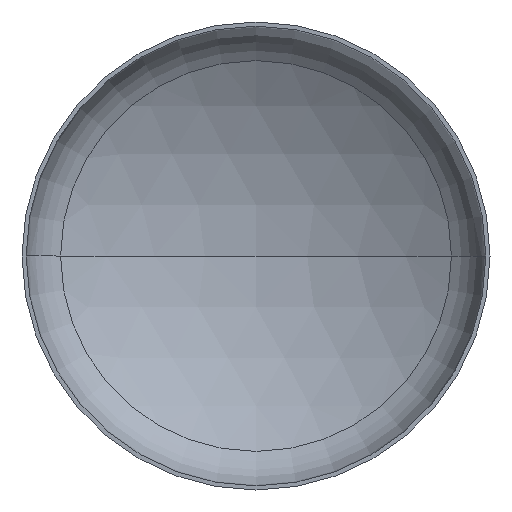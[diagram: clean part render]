
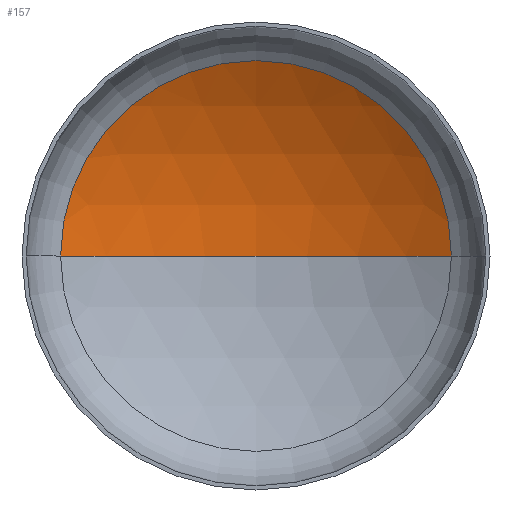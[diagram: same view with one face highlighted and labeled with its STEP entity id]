
A CAD part, front view. The second image highlights one B-rep face of the part: STEP entity #157.
In plain terms, the highlighted spherical face has radius 5200 mm.
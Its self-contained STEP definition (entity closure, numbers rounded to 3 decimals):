
#7 = ORIENTED_EDGE ( 'NONE', *, *, #102, .T. ) ;
#11 = ORIENTED_EDGE ( 'NONE', *, *, #99, .T. ) ;
#33 = AXIS2_PLACEMENT_3D ( 'NONE', #205, #241, #178 ) ;
#56 = AXIS2_PLACEMENT_3D ( 'NONE', #172, #151, #152 ) ;
#60 = AXIS2_PLACEMENT_3D ( 'NONE', #156, #159, #271 ) ;
#62 = AXIS2_PLACEMENT_3D ( 'NONE', #281, #267, #266 ) ;
#63 = VERTEX_POINT ( 'NONE', #211 ) ;
#69 = EDGE_LOOP ( 'NONE', ( #395, #7, #11 ) ) ;
#80 = VERTEX_POINT ( 'NONE', #207 ) ;
#99 = EDGE_CURVE ( 'NONE', #165, #80, #210, .T. ) ;
#102 = EDGE_CURVE ( 'NONE', #63, #165, #136, .T. ) ;
#106 = EDGE_CURVE ( 'NONE', #63, #80, #409, .T. ) ;
#136 = CIRCLE ( 'NONE', #60, 5200. ) ;
#137 = CARTESIAN_POINT ( 'NONE',  ( 2713.905, 973.004, 0. ) ) ;
#151 = DIRECTION ( 'NONE',  ( 0., 0., 1. ) ) ;
#152 = DIRECTION ( 'NONE',  ( 1., 0., 0. ) ) ;
#156 = CARTESIAN_POINT ( 'NONE',  ( 0., -3462.616, 0. ) ) ;
#157 = ADVANCED_FACE ( 'NONE', ( #191 ), #262, .F. ) ;
#159 = DIRECTION ( 'NONE',  ( 0., 0., -1. ) ) ;
#165 = VERTEX_POINT ( 'NONE', #137 ) ;
#172 = CARTESIAN_POINT ( 'NONE',  ( 0., -3462.616, 0. ) ) ;
#178 = DIRECTION ( 'NONE',  ( -1., 0., 0. ) ) ;
#191 = FACE_OUTER_BOUND ( 'NONE', #69, .T. ) ;
#205 = CARTESIAN_POINT ( 'NONE',  ( 0., -3462.616, 0. ) ) ;
#207 = CARTESIAN_POINT ( 'NONE',  ( -2713.905, 973.004, 0. ) ) ;
#210 = CIRCLE ( 'NONE', #62, 2713.905 ) ;
#211 = CARTESIAN_POINT ( 'NONE',  ( 0., 1737.384, 0. ) ) ;
#241 = DIRECTION ( 'NONE',  ( 0., 0., -1. ) ) ;
#262 = SPHERICAL_SURFACE ( 'NONE', #33, 5200. ) ;
#266 = DIRECTION ( 'NONE',  ( 1., 0., 0. ) ) ;
#267 = DIRECTION ( 'NONE',  ( 0., -1., 0. ) ) ;
#271 = DIRECTION ( 'NONE',  ( -1., 0., 0. ) ) ;
#281 = CARTESIAN_POINT ( 'NONE',  ( 0., 973.004, 0. ) ) ;
#395 = ORIENTED_EDGE ( 'NONE', *, *, #106, .F. ) ;
#409 = CIRCLE ( 'NONE', #56, 5200. ) ;
